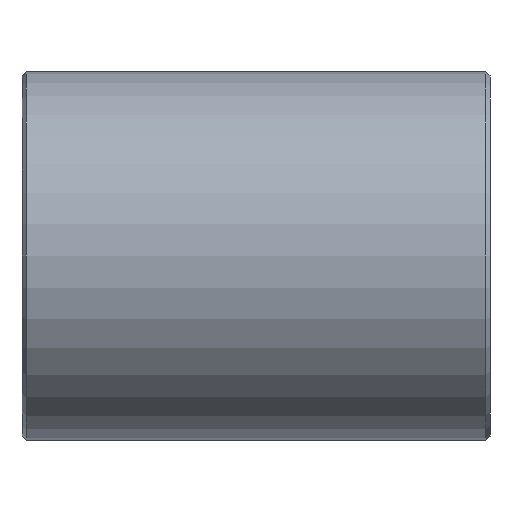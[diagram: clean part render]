
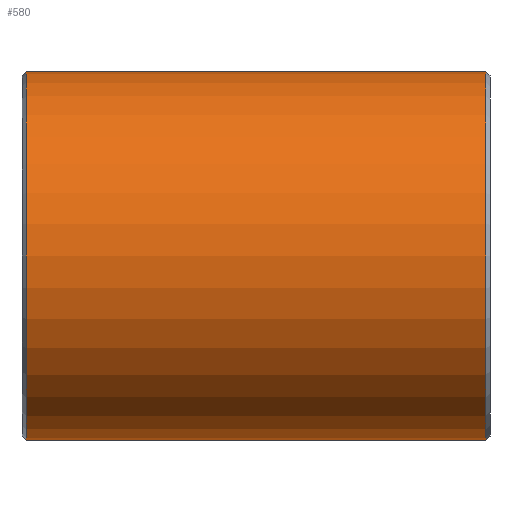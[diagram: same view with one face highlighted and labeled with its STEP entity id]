
A CAD part, left-side view. The second image highlights one B-rep face of the part: STEP entity #580.
In plain terms, the highlighted cylindrical face has radius 13 mm (diameter 26 mm), a partial arc.
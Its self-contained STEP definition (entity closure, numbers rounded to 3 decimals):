
#32 = EDGE_CURVE ( 'NONE', #583, #195, #635, .T. ) ;
#74 = CARTESIAN_POINT ( 'NONE',  ( 0., 0.3, 13. ) ) ;
#85 = DIRECTION ( 'NONE',  ( 0., 0., -1. ) ) ;
#88 = DIRECTION ( 'NONE',  ( 0., 1., 0. ) ) ;
#89 = CARTESIAN_POINT ( 'NONE',  ( 0., 32.7, 0. ) ) ;
#101 = DIRECTION ( 'NONE',  ( 0., 1., 0. ) ) ;
#141 = CARTESIAN_POINT ( 'NONE',  ( 0., 32.7, 13. ) ) ;
#143 = CARTESIAN_POINT ( 'NONE',  ( 0., 32.7, 13. ) ) ;
#148 = CARTESIAN_POINT ( 'NONE',  ( 0., 0.3, 0. ) ) ;
#173 = AXIS2_PLACEMENT_3D ( 'NONE', #184, #393, #778 ) ;
#184 = CARTESIAN_POINT ( 'NONE',  ( 0., 32.7, 0. ) ) ;
#193 = CARTESIAN_POINT ( 'NONE',  ( 0., 0.3, -13. ) ) ;
#195 = VERTEX_POINT ( 'NONE', #193 ) ;
#214 = EDGE_CURVE ( 'NONE', #583, #566, #517, .T. ) ;
#310 = VECTOR ( 'NONE', #385, 1000. ) ;
#317 = LINE ( 'NONE', #141, #310 ) ;
#322 = CIRCLE ( 'NONE', #491, 13. ) ;
#383 = CARTESIAN_POINT ( 'NONE',  ( 0., 32.7, -13. ) ) ;
#385 = DIRECTION ( 'NONE',  ( 0., -1., 0. ) ) ;
#393 = DIRECTION ( 'NONE',  ( 0., -1., 0. ) ) ;
#405 = CYLINDRICAL_SURFACE ( 'NONE', #173, 13. ) ;
#406 = FACE_OUTER_BOUND ( 'NONE', #878, .T. ) ;
#491 = AXIS2_PLACEMENT_3D ( 'NONE', #148, #101, #568 ) ;
#507 = CARTESIAN_POINT ( 'NONE',  ( 0., 32.7, -13. ) ) ;
#515 = DIRECTION ( 'NONE',  ( 0., -1., 0. ) ) ;
#517 = CIRCLE ( 'NONE', #892, 13. ) ;
#553 = VECTOR ( 'NONE', #515, 1000. ) ;
#566 = VERTEX_POINT ( 'NONE', #143 ) ;
#568 = DIRECTION ( 'NONE',  ( 0., 0., 1. ) ) ;
#580 = ADVANCED_FACE ( 'NONE', ( #406 ), #405, .T. ) ;
#583 = VERTEX_POINT ( 'NONE', #383 ) ;
#618 = ORIENTED_EDGE ( 'NONE', *, *, #846, .T. ) ;
#623 = ORIENTED_EDGE ( 'NONE', *, *, #905, .F. ) ;
#635 = LINE ( 'NONE', #507, #553 ) ;
#656 = ORIENTED_EDGE ( 'NONE', *, *, #32, .T. ) ;
#674 = ORIENTED_EDGE ( 'NONE', *, *, #214, .F. ) ;
#778 = DIRECTION ( 'NONE',  ( 0., 0., -1. ) ) ;
#815 = VERTEX_POINT ( 'NONE', #74 ) ;
#846 = EDGE_CURVE ( 'NONE', #195, #815, #322, .T. ) ;
#878 = EDGE_LOOP ( 'NONE', ( #623, #674, #656, #618 ) ) ;
#892 = AXIS2_PLACEMENT_3D ( 'NONE', #89, #88, #85 ) ;
#905 = EDGE_CURVE ( 'NONE', #566, #815, #317, .T. ) ;
